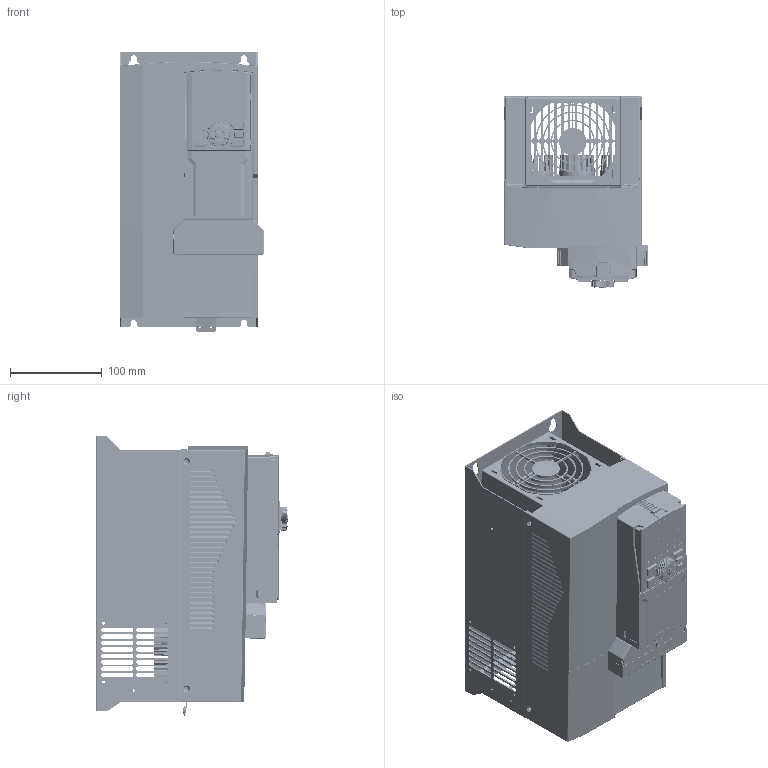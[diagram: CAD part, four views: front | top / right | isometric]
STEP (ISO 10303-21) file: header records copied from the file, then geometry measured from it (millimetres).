
FILE_DESCRIPTION((''),'2;1');
FILE_NAME('00-A8-18_ASM_100_ASM_7_ASM','2024-08-14T',('Administrator'),(''),'PRO/ENGINEER BY PARAMETRIC TECHNOLOGY CORPORATION, 2010280','PRO/ENGINEER BY PARAMETRIC TECHNOLOGY CORPORATION, 2010280','');
FILE_SCHEMA(('AUTOMOTIVE_DESIGN { 1 0 10303 214 1 1 1 1 }'));
Length unit declared in the file: millimetre
Products named in the file (58): A8-18-01-01-01_60_2; S-M4-ZC_14_2; S-M3-ZC_14_2; A8-18-01-01-01_ASM_44_ASM_2_ASM; A8-18-01-01-02_44_1_2; A8-18-01-01-02_44_2_2; A8-18-01-01-02_44_3_2; A8-18-01-01-02_44_ASM_2_ASM; A8-18-01-01-02_ASM_36_ASM_2_ASM; A8-18-01-01-03_42_1_3; A8-18-01-01-03_42_2_2; A8-18-01-01-03_42_3_2; A8-18-01-01-03_42_ASM_2_ASM; A8-18-01-01-03_ASM_32_ASM_2_ASM; A8-18-01-01_ASM_49_ASM_2_ASM; A8-18-01-02-01_55_2; A8-18-01-02-02_74_2; A8-18-01-02-03_34_2; A8-18-01-02-04_34_2; A8-18-01-02_ASM_37_ASM_2_ASM; A8-18-01_ASM_48_ASM_2_ASM; BHR16-6-16_25_2; A8Q-18R5-01Y-20220320_ASM_35_AS_ASM; BHP5-3-11_14_2; A8-18R5-DZB_ASM_25_ASM_3_ASM; A8-18R5-PCB_ASM_31_ASM_3_ASM; A9-01-01_2; A9-01-02_2; A9-01-04_2; A9-01_ASM_3_ASM; 8PING-ZUO_2; KFM736-5D0_2; A9KZPCB_ASM_3_ASM; A9-01-08_2; A9-01-09_2; A9-01-10_2; A9-KZK-01_ASM_2_ASM; KZK_2; KF250-3-5_2; SKD-2500-03_2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
Assembly tree (78 placements, depth 6):
  00-A8-18_ASM_100_ASM_7_ASM
    A8-18-01_ASM_48_ASM_2_ASM
      A8-18-01-01_ASM_49_ASM_2_ASM
        A8-18-01-01-01_ASM_44_ASM_2_ASM
          A8-18-01-01-01_60_2
          S-M4-ZC_14_2  x4
          S-M3-ZC_14_2  x10
        A8-18-01-01-02_ASM_36_ASM_2_ASM
          A8-18-01-01-02_44_ASM_2_ASM
            A8-18-01-01-02_44_1_2
            A8-18-01-01-02_44_2_2
            A8-18-01-01-02_44_3_2
          S-M4-ZC_14_2  x2
          S-M3-ZC_14_2  x4
        A8-18-01-01-03_ASM_32_ASM_2_ASM
          A8-18-01-01-03_42_ASM_2_ASM
            A8-18-01-01-03_42_1_3
            A8-18-01-01-03_42_2_2
            A8-18-01-01-03_42_3_2
      A8-18-01-02_ASM_37_ASM_2_ASM
        A8-18-01-02-01_55_2
        A8-18-01-02-02_74_2
        A8-18-01-02-03_34_2
        A8-18-01-02-04_34_2
    A8-18R5-PCB_ASM_31_ASM_3_ASM
      A8Q-18R5-01Y-20220320_ASM_35_AS_ASM
        BHR16-6-16_25_2
      A8-18R5-DZB_ASM_25_ASM_3_ASM
        BHP5-3-11_14_2
    00-A9-KZ_ASM_3_ASM
      A9-01_ASM_3_ASM
        A9-01-01_2
        A9-01-02_2
        A9-01-04_2
      A9KZPCB_ASM_3_ASM
        8PING-ZUO_2  x2
        KFM736-5D0_2
      KZK-00_ASM_2_ASM
        A9-KZK-01_ASM_2_ASM
          A9-01-08_2
          A9-01-09_2
          A9-01-10_2
        KZK_ASM_2_ASM
          KZK_2
          KF250-3-5_2
          SKD-2500-03_2  x2
          KF250-3-5-2P_2
          8PIN-ZUO-1_2  x2
      A9-JP_ASM_3_ASM
        A9-JP-01_ASM_2_ASM
          A9-01-05_2
          A9-01-06_2
          A9-01-07_2
        A9-10_ASM_3_ASM
          A9-10-01_2
          A9-10-02_2
          A9-10-04_2_ASM
            MANIFOLD_SOLID_BREP_533770
            MANIFOLD_SOLID_BREP_548568
        H23T37-03Z_2
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Bounding box: 157.01 x 209.8 x 304.97 mm (x, y, z)
Volume: 738891.4 mm3; surface area: 898275 mm2
Topology: 57 solids, 57 shells, 16074 faces, 48549 edges, 35296 vertices
Faces by surface type: plane 13430, cylinder 1639, cone 723, bspline 144, torus 69, sphere 69
Entity records: 515418 total; most frequent: CARTESIAN_POINT 87611, ORIENTED_EDGE 67190, DIRECTION 67001, EDGE_CURVE 33595, VECTOR 29677, LINE 29677, VERTEX_POINT 22029, PRESENTATION_STYLE_ASSIGNMENT 19947
